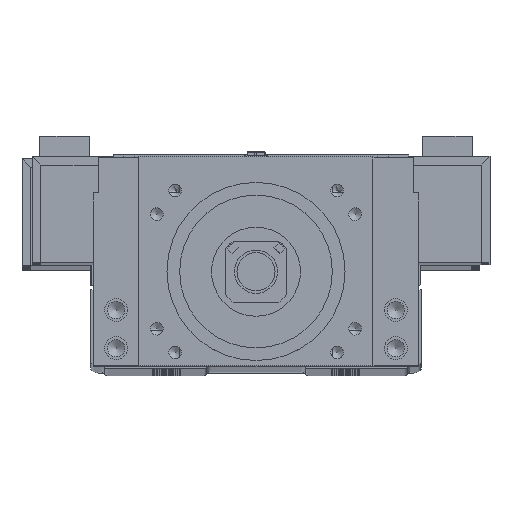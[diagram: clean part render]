
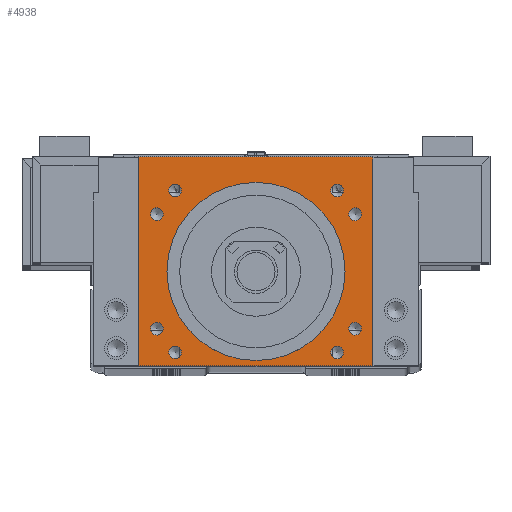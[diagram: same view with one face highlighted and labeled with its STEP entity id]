
A CAD part, top view. The second image highlights one B-rep face of the part: STEP entity #4938.
In plain terms, the highlighted planar face has unit normal (0, 0, 1).
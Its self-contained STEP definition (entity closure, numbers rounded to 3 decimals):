
#4938=ADVANCED_FACE('',(#10991,#10992,#10993,#10994,#10995,#10996,#10997,
#10998,#10999,#11000),#8013,.T.);
#8013=PLANE('',#56457);
#10991=FACE_BOUND('',#12213,.T.);
#10992=FACE_BOUND('',#12214,.T.);
#10993=FACE_BOUND('',#12215,.T.);
#10994=FACE_BOUND('',#12216,.T.);
#10995=FACE_BOUND('',#12217,.T.);
#10996=FACE_BOUND('',#12218,.T.);
#10997=FACE_BOUND('',#12219,.T.);
#10998=FACE_BOUND('',#12220,.T.);
#10999=FACE_BOUND('',#12221,.T.);
#11000=FACE_BOUND('',#12222,.T.);
#12213=EDGE_LOOP('',(#17722,#17723,#17724,#17725));
#12214=EDGE_LOOP('',(#17726));
#12215=EDGE_LOOP('',(#17727));
#12216=EDGE_LOOP('',(#17728));
#12217=EDGE_LOOP('',(#17729));
#12218=EDGE_LOOP('',(#17730));
#12219=EDGE_LOOP('',(#17731));
#12220=EDGE_LOOP('',(#17732));
#12221=EDGE_LOOP('',(#17733));
#12222=EDGE_LOOP('',(#17734));
#15689=CIRCLE('',#56404,2.5);
#15692=CIRCLE('',#56409,2.5);
#15694=CIRCLE('',#56413,2.5);
#15695=CIRCLE('',#56415,2.5);
#15706=CIRCLE('',#56442,2.5);
#15708=CIRCLE('',#56446,2.5);
#15710=CIRCLE('',#56450,2.5);
#15712=CIRCLE('',#56454,2.5);
#15713=CIRCLE('',#56456,35.015);
#17722=ORIENTED_EDGE('',*,*,#36350,.T.);
#17723=ORIENTED_EDGE('',*,*,#35514,.T.);
#17724=ORIENTED_EDGE('',*,*,#36351,.T.);
#17725=ORIENTED_EDGE('',*,*,#36352,.T.);
#17726=ORIENTED_EDGE('',*,*,#36347,.F.);
#17727=ORIENTED_EDGE('',*,*,#36345,.T.);
#17728=ORIENTED_EDGE('',*,*,#36343,.T.);
#17729=ORIENTED_EDGE('',*,*,#36349,.F.);
#17730=ORIENTED_EDGE('',*,*,#36353,.F.);
#17731=ORIENTED_EDGE('',*,*,#36303,.T.);
#17732=ORIENTED_EDGE('',*,*,#36302,.T.);
#17733=ORIENTED_EDGE('',*,*,#36300,.T.);
#17734=ORIENTED_EDGE('',*,*,#36297,.T.);
#30877=VERTEX_POINT('',#74133);
#30878=VERTEX_POINT('',#74135);
#31465=VERTEX_POINT('',#76809);
#31469=VERTEX_POINT('',#76818);
#31472=VERTEX_POINT('',#76825);
#31473=VERTEX_POINT('',#76828);
#31503=VERTEX_POINT('',#76914);
#31506=VERTEX_POINT('',#76921);
#31509=VERTEX_POINT('',#76928);
#31512=VERTEX_POINT('',#76935);
#31513=VERTEX_POINT('',#76938);
#31514=VERTEX_POINT('',#76940);
#31515=VERTEX_POINT('',#76943);
#35514=EDGE_CURVE('',#30878,#30877,#42882,.T.);
#36297=EDGE_CURVE('',#31465,#31465,#15689,.T.);
#36300=EDGE_CURVE('',#31469,#31469,#15692,.T.);
#36302=EDGE_CURVE('',#31472,#31472,#15694,.T.);
#36303=EDGE_CURVE('',#31473,#31473,#15695,.T.);
#36343=EDGE_CURVE('',#31503,#31503,#15706,.T.);
#36345=EDGE_CURVE('',#31506,#31506,#15708,.T.);
#36347=EDGE_CURVE('',#31509,#31509,#15710,.T.);
#36349=EDGE_CURVE('',#31512,#31512,#15712,.T.);
#36350=EDGE_CURVE('',#31513,#30878,#43347,.T.);
#36351=EDGE_CURVE('',#30877,#31514,#43348,.T.);
#36352=EDGE_CURVE('',#31514,#31513,#43349,.T.);
#36353=EDGE_CURVE('',#31515,#31515,#15713,.T.);
#42882=LINE('',#74134,#49325);
#43347=LINE('',#76937,#49790);
#43348=LINE('',#76939,#49791);
#43349=LINE('',#76941,#49792);
#49325=VECTOR('',#59753,1.);
#49790=VECTOR('',#61542,1.);
#49791=VECTOR('',#61543,1.);
#49792=VECTOR('',#61544,1.);
#56404=AXIS2_PLACEMENT_3D('',#76808,#61409,#61410);
#56409=AXIS2_PLACEMENT_3D('',#76817,#61419,#61420);
#56413=AXIS2_PLACEMENT_3D('',#76824,#61427,#61428);
#56415=AXIS2_PLACEMENT_3D('',#76827,#61431,#61432);
#56442=AXIS2_PLACEMENT_3D('',#76913,#61514,#61515);
#56446=AXIS2_PLACEMENT_3D('',#76920,#61522,#61523);
#56450=AXIS2_PLACEMENT_3D('',#76927,#61530,#61531);
#56454=AXIS2_PLACEMENT_3D('',#76934,#61538,#61539);
#56456=AXIS2_PLACEMENT_3D('',#76942,#61545,#61546);
#56457=AXIS2_PLACEMENT_3D('',#76944,#61547,#61548);
#59753=DIRECTION('',(-1.,0.,0.));
#61409=DIRECTION('',(0.,0.,-1.));
#61410=DIRECTION('',(1.,0.,0.));
#61419=DIRECTION('',(0.,0.,-1.));
#61420=DIRECTION('',(1.,0.,0.));
#61427=DIRECTION('',(0.,0.,-1.));
#61428=DIRECTION('',(1.,0.,0.));
#61431=DIRECTION('',(0.,0.,-1.));
#61432=DIRECTION('',(1.,0.,0.));
#61514=DIRECTION('',(0.,0.,-1.));
#61515=DIRECTION('',(1.,0.,0.));
#61522=DIRECTION('',(0.,0.,-1.));
#61523=DIRECTION('',(1.,0.,0.));
#61530=DIRECTION('',(0.,0.,1.));
#61531=DIRECTION('',(-1.,0.,0.));
#61538=DIRECTION('',(0.,0.,1.));
#61539=DIRECTION('',(-1.,0.,0.));
#61542=DIRECTION('',(0.,1.,0.));
#61543=DIRECTION('',(0.,-1.,0.));
#61544=DIRECTION('',(1.,0.,0.));
#61545=DIRECTION('',(0.,0.,1.));
#61546=DIRECTION('',(1.,0.,0.));
#61547=DIRECTION('',(0.,0.,1.));
#61548=DIRECTION('',(-1.,0.,0.));
#74133=CARTESIAN_POINT('',(-46.,83.,100.));
#74134=CARTESIAN_POINT('',(0.,83.,100.));
#74135=CARTESIAN_POINT('',(46.,83.,100.));
#76808=CARTESIAN_POINT('',(31.82,69.82,100.));
#76809=CARTESIAN_POINT('',(34.32,69.82,100.));
#76817=CARTESIAN_POINT('',(31.82,6.18,100.));
#76818=CARTESIAN_POINT('',(34.32,6.18,100.));
#76824=CARTESIAN_POINT('',(-31.82,6.18,100.));
#76825=CARTESIAN_POINT('',(-29.32,6.18,100.));
#76827=CARTESIAN_POINT('',(-31.82,69.82,100.));
#76828=CARTESIAN_POINT('',(-29.32,69.82,100.));
#76913=CARTESIAN_POINT('',(38.971,15.5,100.));
#76914=CARTESIAN_POINT('',(41.471,15.5,100.));
#76920=CARTESIAN_POINT('',(38.971,60.5,100.));
#76921=CARTESIAN_POINT('',(41.471,60.5,100.));
#76927=CARTESIAN_POINT('',(-38.971,15.5,100.));
#76928=CARTESIAN_POINT('',(-41.471,15.5,100.));
#76934=CARTESIAN_POINT('',(-38.971,60.5,100.));
#76935=CARTESIAN_POINT('',(-41.471,60.5,100.));
#76937=CARTESIAN_POINT('',(46.,38.,100.));
#76938=CARTESIAN_POINT('',(46.,1.,100.));
#76939=CARTESIAN_POINT('',(-46.,38.,100.));
#76940=CARTESIAN_POINT('',(-46.,1.,100.));
#76941=CARTESIAN_POINT('',(0.,1.,100.));
#76942=CARTESIAN_POINT('',(0.,38.,100.));
#76943=CARTESIAN_POINT('',(35.015,38.,100.));
#76944=CARTESIAN_POINT('',(0.,38.,100.));
